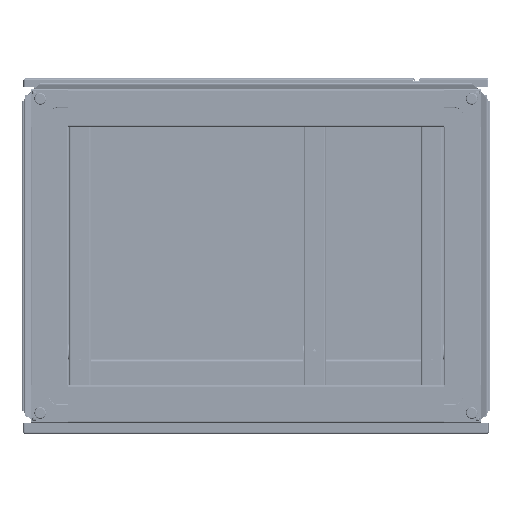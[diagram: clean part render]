
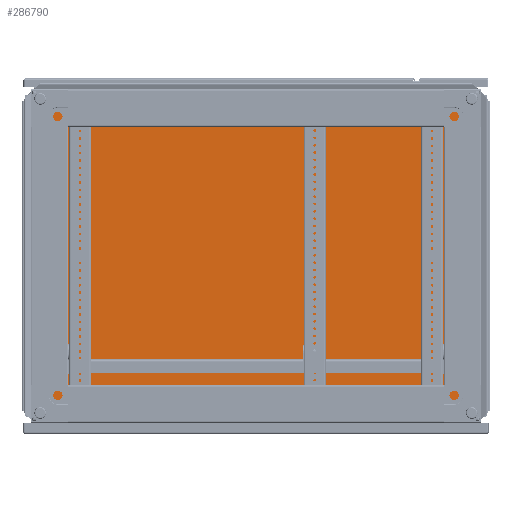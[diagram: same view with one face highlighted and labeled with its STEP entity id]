
A CAD part, front view. The second image highlights one B-rep face of the part: STEP entity #286790.
In plain terms, the highlighted planar face has unit normal (0, -1, 0).
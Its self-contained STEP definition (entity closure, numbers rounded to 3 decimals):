
#284318=DIRECTION('',(-1.,0.,0.));
#284319=VECTOR('',#284318,762.5);
#284320=CARTESIAN_POINT('',(381.25,11.5,281.25));
#284321=LINE('',#284320,#284319);
#284655=DIRECTION('',(0.,0.,-1.));
#284656=VECTOR('',#284655,562.5);
#284657=CARTESIAN_POINT('',(-381.25,11.5,281.25));
#284658=LINE('',#284657,#284656);
#284674=DIRECTION('',(-1.,0.,0.));
#284675=VECTOR('',#284674,762.5);
#284676=CARTESIAN_POINT('',(381.25,11.5,-281.25));
#284677=LINE('',#284676,#284675);
#284678=DIRECTION('',(0.,0.,-1.));
#284679=VECTOR('',#284678,562.5);
#284680=CARTESIAN_POINT('',(381.25,11.5,281.25));
#284681=LINE('',#284680,#284679);
#284682=CARTESIAN_POINT('',(367.5,11.5,267.5));
#284683=DIRECTION('',(0.,1.,0.));
#284684=DIRECTION('',(1.,0.,0.));
#284685=AXIS2_PLACEMENT_3D('',#284682,#284683,#284684);
#284687=CARTESIAN_POINT('',(367.5,11.5,267.5));
#284688=DIRECTION('',(0.,1.,0.));
#284689=DIRECTION('',(-1.,0.,0.));
#284690=AXIS2_PLACEMENT_3D('',#284687,#284688,#284689);
#284692=CARTESIAN_POINT('',(367.5,11.5,-267.5));
#284693=DIRECTION('',(0.,-1.,0.));
#284694=DIRECTION('',(1.,0.,0.));
#284695=AXIS2_PLACEMENT_3D('',#284692,#284693,#284694);
#284697=CARTESIAN_POINT('',(367.5,11.5,-267.5));
#284698=DIRECTION('',(0.,-1.,0.));
#284699=DIRECTION('',(-1.,0.,0.));
#284700=AXIS2_PLACEMENT_3D('',#284697,#284698,#284699);
#284702=CARTESIAN_POINT('',(-367.5,11.5,267.5));
#284703=DIRECTION('',(0.,-1.,0.));
#284704=DIRECTION('',(-1.,0.,0.));
#284705=AXIS2_PLACEMENT_3D('',#284702,#284703,#284704);
#284707=CARTESIAN_POINT('',(-367.5,11.5,267.5));
#284708=DIRECTION('',(0.,-1.,0.));
#284709=DIRECTION('',(1.,0.,0.));
#284710=AXIS2_PLACEMENT_3D('',#284707,#284708,#284709);
#284712=CARTESIAN_POINT('',(-367.5,11.5,-267.5));
#284713=DIRECTION('',(0.,1.,0.));
#284714=DIRECTION('',(-1.,0.,0.));
#284715=AXIS2_PLACEMENT_3D('',#284712,#284713,#284714);
#284717=CARTESIAN_POINT('',(-367.5,11.5,-267.5));
#284718=DIRECTION('',(0.,1.,0.));
#284719=DIRECTION('',(1.,0.,0.));
#284720=AXIS2_PLACEMENT_3D('',#284717,#284718,#284719);
#284722=CARTESIAN_POINT('',(299.75,11.5,0.));
#284723=DIRECTION('',(0.,-1.,0.));
#284724=DIRECTION('',(0.,0.,-1.));
#284725=AXIS2_PLACEMENT_3D('',#284722,#284723,#284724);
#284727=CARTESIAN_POINT('',(299.75,11.5,0.));
#284728=DIRECTION('',(0.,-1.,0.));
#284729=DIRECTION('',(0.,0.,1.));
#284730=AXIS2_PLACEMENT_3D('',#284727,#284728,#284729);
#284732=CARTESIAN_POINT('',(-299.75,11.5,0.));
#284733=DIRECTION('',(0.,-1.,0.));
#284734=DIRECTION('',(0.,0.,-1.));
#284735=AXIS2_PLACEMENT_3D('',#284732,#284733,#284734);
#284737=CARTESIAN_POINT('',(-299.75,11.5,0.));
#284738=DIRECTION('',(0.,-1.,0.));
#284739=DIRECTION('',(0.,0.,1.));
#284740=AXIS2_PLACEMENT_3D('',#284737,#284738,#284739);
#285368=CARTESIAN_POINT('',(377.993,11.5,267.5));
#285369=CARTESIAN_POINT('',(357.007,11.5,267.5));
#285370=VERTEX_POINT('',#285368);
#285371=VERTEX_POINT('',#285369);
#285392=CARTESIAN_POINT('',(377.993,11.5,-267.5));
#285393=CARTESIAN_POINT('',(357.007,11.5,-267.5));
#285394=VERTEX_POINT('',#285392);
#285395=VERTEX_POINT('',#285393);
#285416=CARTESIAN_POINT('',(-377.993,11.5,267.5));
#285417=CARTESIAN_POINT('',(-357.007,11.5,267.5));
#285418=VERTEX_POINT('',#285416);
#285419=VERTEX_POINT('',#285417);
#285440=CARTESIAN_POINT('',(-377.993,11.5,-267.5));
#285441=CARTESIAN_POINT('',(-357.007,11.5,-267.5));
#285442=VERTEX_POINT('',#285440);
#285443=VERTEX_POINT('',#285441);
#285452=CARTESIAN_POINT('',(299.75,11.5,-0.5));
#285453=CARTESIAN_POINT('',(299.75,11.5,0.5));
#285454=VERTEX_POINT('',#285452);
#285455=VERTEX_POINT('',#285453);
#285456=CARTESIAN_POINT('',(-299.75,11.5,-0.5));
#285457=CARTESIAN_POINT('',(-299.75,11.5,0.5));
#285458=VERTEX_POINT('',#285456);
#285459=VERTEX_POINT('',#285457);
#285484=CARTESIAN_POINT('',(381.25,11.5,281.25));
#285486=VERTEX_POINT('',#285484);
#285488=CARTESIAN_POINT('',(-381.25,11.5,281.25));
#285489=VERTEX_POINT('',#285488);
#285500=CARTESIAN_POINT('',(381.25,11.5,-281.25));
#285502=VERTEX_POINT('',#285500);
#285506=CARTESIAN_POINT('',(-381.25,11.5,-281.25));
#285507=VERTEX_POINT('',#285506);
#286743=CARTESIAN_POINT('',(381.25,11.5,-281.25));
#286744=DIRECTION('',(0.,1.,0.));
#286745=DIRECTION('',(0.,0.,1.));
#286746=AXIS2_PLACEMENT_3D('',#286743,#286744,#286745);
#286747=PLANE('',#286746);
#286748=ORIENTED_EDGE('',*,*,#286267,.T.);
#286749=ORIENTED_EDGE('',*,*,#286733,.F.);
#286750=ORIENTED_EDGE('',*,*,#286161,.F.);
#286751=ORIENTED_EDGE('',*,*,#286229,.T.);
#286752=EDGE_LOOP('',(#286748,#286749,#286750,#286751));
#286753=FACE_OUTER_BOUND('',#286752,.F.);
#286755=ORIENTED_EDGE('',*,*,#286754,.F.);
#286757=ORIENTED_EDGE('',*,*,#286756,.F.);
#286758=EDGE_LOOP('',(#286755,#286757));
#286759=FACE_BOUND('',#286758,.F.);
#286761=ORIENTED_EDGE('',*,*,#286760,.T.);
#286763=ORIENTED_EDGE('',*,*,#286762,.T.);
#286764=EDGE_LOOP('',(#286761,#286763));
#286765=FACE_BOUND('',#286764,.F.);
#286767=ORIENTED_EDGE('',*,*,#286766,.T.);
#286769=ORIENTED_EDGE('',*,*,#286768,.T.);
#286770=EDGE_LOOP('',(#286767,#286769));
#286771=FACE_BOUND('',#286770,.F.);
#286773=ORIENTED_EDGE('',*,*,#286772,.F.);
#286775=ORIENTED_EDGE('',*,*,#286774,.F.);
#286776=EDGE_LOOP('',(#286773,#286775));
#286777=FACE_BOUND('',#286776,.F.);
#286779=ORIENTED_EDGE('',*,*,#286778,.T.);
#286781=ORIENTED_EDGE('',*,*,#286780,.T.);
#286782=EDGE_LOOP('',(#286779,#286781));
#286783=FACE_BOUND('',#286782,.F.);
#286785=ORIENTED_EDGE('',*,*,#286784,.T.);
#286787=ORIENTED_EDGE('',*,*,#286786,.T.);
#286788=EDGE_LOOP('',(#286785,#286787));
#286789=FACE_BOUND('',#286788,.F.);
#286790=ADVANCED_FACE('',(#286753,#286759,#286765,#286771,#286777,#286783,
#286789),#286747,.F.);
#284686=CIRCLE('',#284685,10.493);
#284691=CIRCLE('',#284690,10.493);
#284696=CIRCLE('',#284695,10.493);
#284701=CIRCLE('',#284700,10.493);
#284706=CIRCLE('',#284705,10.493);
#284711=CIRCLE('',#284710,10.493);
#284716=CIRCLE('',#284715,10.493);
#284721=CIRCLE('',#284720,10.493);
#284726=CIRCLE('',#284725,0.5);
#284731=CIRCLE('',#284730,0.5);
#284736=CIRCLE('',#284735,0.5);
#284741=CIRCLE('',#284740,0.5);
#286161=EDGE_CURVE('',#285486,#285489,#284321,.T.);
#286229=EDGE_CURVE('',#285486,#285502,#284681,.T.);
#286267=EDGE_CURVE('',#285502,#285507,#284677,.T.);
#286733=EDGE_CURVE('',#285489,#285507,#284658,.T.);
#286754=EDGE_CURVE('',#285370,#285371,#284686,.T.);
#286756=EDGE_CURVE('',#285371,#285370,#284691,.T.);
#286760=EDGE_CURVE('',#285394,#285395,#284696,.T.);
#286762=EDGE_CURVE('',#285395,#285394,#284701,.T.);
#286766=EDGE_CURVE('',#285418,#285419,#284706,.T.);
#286768=EDGE_CURVE('',#285419,#285418,#284711,.T.);
#286772=EDGE_CURVE('',#285442,#285443,#284716,.T.);
#286774=EDGE_CURVE('',#285443,#285442,#284721,.T.);
#286778=EDGE_CURVE('',#285454,#285455,#284726,.T.);
#286780=EDGE_CURVE('',#285455,#285454,#284731,.T.);
#286784=EDGE_CURVE('',#285458,#285459,#284736,.T.);
#286786=EDGE_CURVE('',#285459,#285458,#284741,.T.);
